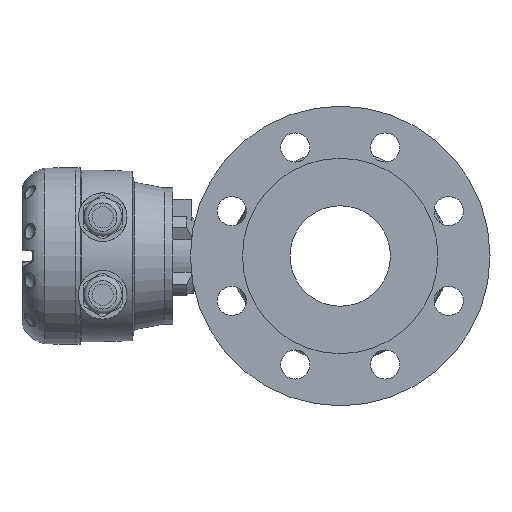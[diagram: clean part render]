
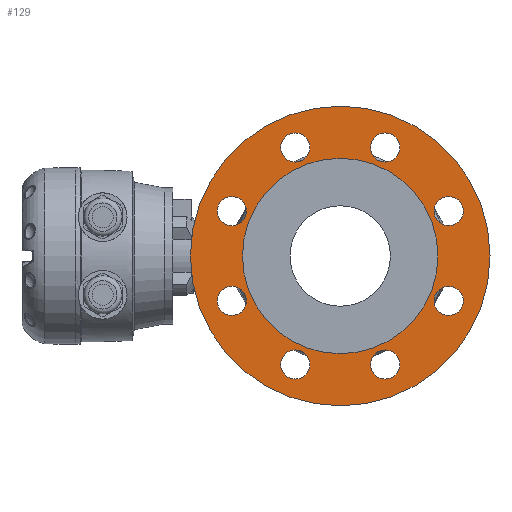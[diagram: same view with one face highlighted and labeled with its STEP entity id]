
A CAD part, left-side view. The second image highlights one B-rep face of the part: STEP entity #129.
In plain terms, the highlighted planar face has unit normal (-1, 0, 0).
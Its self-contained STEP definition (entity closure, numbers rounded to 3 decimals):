
#129 = ADVANCED_FACE ( 'NONE', ( #14922, #14928, #14930, #14932, #14926, #14921, #14929, #14931, #14933, #14927 ), #5978, .T. ) ;
#4008 = EDGE_LOOP ( 'NONE', ( #14595 ) ) ;
#4026 = EDGE_LOOP ( 'NONE', ( #14586 ) ) ;
#4060 = EDGE_LOOP ( 'NONE', ( #14592 ) ) ;
#4061 = EDGE_LOOP ( 'NONE', ( #14593 ) ) ;
#4062 = EDGE_LOOP ( 'NONE', ( #14594 ) ) ;
#4063 = EDGE_LOOP ( 'NONE', ( #14591 ) ) ;
#4069 = EDGE_LOOP ( 'NONE', ( #14587 ) ) ;
#4156 = EDGE_LOOP ( 'NONE', ( #14589 ) ) ;
#4157 = EDGE_LOOP ( 'NONE', ( #14588 ) ) ;
#4158 = EDGE_LOOP ( 'NONE', ( #14590 ) ) ;
#4726 = CIRCLE ( 'NONE', #14375, 9. ) ;
#4763 = CIRCLE ( 'NONE', #14378, 9. ) ;
#4764 = CIRCLE ( 'NONE', #14385, 9. ) ;
#4797 = CIRCLE ( 'NONE', #14391, 92.5 ) ;
#4916 = CIRCLE ( 'NONE', #14437, 9. ) ;
#5026 = CIRCLE ( 'NONE', #14461, 60.35 ) ;
#5066 = CIRCLE ( 'NONE', #14472, 9. ) ;
#5109 = CIRCLE ( 'NONE', #14485, 9. ) ;
#5165 = CIRCLE ( 'NONE', #14493, 9. ) ;
#5978 = PLANE ( 'NONE',  #14023 ) ;
#5984 = DIRECTION ( 'NONE',  ( 0., 0., -1. ) ) ;
#5985 = CARTESIAN_POINT ( 'NONE',  ( -89.805, -97.017, -10.543 ) ) ;
#6111 = DIRECTION ( 'NONE',  ( -1., 0., 0. ) ) ;
#6711 = CARTESIAN_POINT ( 'NONE',  ( -89.805, -163.998, 17.202 ) ) ;
#6712 = DIRECTION ( 'NONE',  ( -1., 0., 0. ) ) ;
#6713 = DIRECTION ( 'NONE',  ( 0., 0., 1. ) ) ;
#6760 = CARTESIAN_POINT ( 'NONE',  ( -89.805, -69.272, -77.524 ) ) ;
#6773 = DIRECTION ( 'NONE',  ( -1., 0., 0. ) ) ;
#6774 = DIRECTION ( 'NONE',  ( 0., 0., 1. ) ) ;
#6850 = CARTESIAN_POINT ( 'NONE',  ( -89.805, -69.272, 56.438 ) ) ;
#6868 = CARTESIAN_POINT ( 'NONE',  ( -89.805, -124.761, 56.438 ) ) ;
#6873 = DIRECTION ( 'NONE',  ( -1., 0., 0. ) ) ;
#6874 = DIRECTION ( 'NONE',  ( 0., 0., 1. ) ) ;
#6876 = DIRECTION ( 'NONE',  ( -1., 0., 0. ) ) ;
#6877 = DIRECTION ( 'NONE',  ( 0., 0., 1. ) ) ;
#6957 = CARTESIAN_POINT ( 'NONE',  ( -89.805, -97.017, -10.543 ) ) ;
#6959 = DIRECTION ( 'NONE',  ( 1., 0., 0. ) ) ;
#6960 = DIRECTION ( 'NONE',  ( 0., 0., -1. ) ) ;
#7236 = CARTESIAN_POINT ( 'NONE',  ( -89.805, -124.761, -77.524 ) ) ;
#7239 = DIRECTION ( 'NONE',  ( -1., 0., 0. ) ) ;
#7240 = DIRECTION ( 'NONE',  ( 0., 0., 1. ) ) ;
#7588 = CARTESIAN_POINT ( 'NONE',  ( -89.805, -97.017, -10.543 ) ) ;
#7590 = DIRECTION ( 'NONE',  ( 1., 0., 0. ) ) ;
#7591 = DIRECTION ( 'NONE',  ( 0., 0., -1. ) ) ;
#7689 = CARTESIAN_POINT ( 'NONE',  ( -89.805, -163.998, -38.287 ) ) ;
#7699 = DIRECTION ( 'NONE',  ( -1., 0., 0. ) ) ;
#7700 = DIRECTION ( 'NONE',  ( 0., 0., 1. ) ) ;
#7790 = CARTESIAN_POINT ( 'NONE',  ( -89.805, -30.036, 17.202 ) ) ;
#7796 = DIRECTION ( 'NONE',  ( -1., 0., 0. ) ) ;
#7797 = DIRECTION ( 'NONE',  ( 0., 0., 1. ) ) ;
#7922 = CARTESIAN_POINT ( 'NONE',  ( -89.805, -30.036, -38.287 ) ) ;
#7927 = DIRECTION ( 'NONE',  ( -1., 0., 0. ) ) ;
#7928 = DIRECTION ( 'NONE',  ( 0., 0., 1. ) ) ;
#8699 = VERTEX_POINT ( 'NONE', #8700 ) ;
#8700 = CARTESIAN_POINT ( 'NONE',  ( -89.805, -163.998, 26.202 ) ) ;
#8709 = VERTEX_POINT ( 'NONE', #8710 ) ;
#8710 = CARTESIAN_POINT ( 'NONE',  ( -89.805, -69.272, -68.524 ) ) ;
#8713 = VERTEX_POINT ( 'NONE', #8714 ) ;
#8714 = CARTESIAN_POINT ( 'NONE',  ( -89.805, -124.761, 65.438 ) ) ;
#8715 = VERTEX_POINT ( 'NONE', #8716 ) ;
#8716 = CARTESIAN_POINT ( 'NONE',  ( -89.805, -69.272, 65.438 ) ) ;
#8725 = VERTEX_POINT ( 'NONE', #8726 ) ;
#8726 = CARTESIAN_POINT ( 'NONE',  ( -89.805, -97.017, -103.043 ) ) ;
#8731 = VERTEX_POINT ( 'NONE', #8732 ) ;
#8732 = CARTESIAN_POINT ( 'NONE',  ( -89.805, -124.761, -68.524 ) ) ;
#8747 = VERTEX_POINT ( 'NONE', #8748 ) ;
#8748 = CARTESIAN_POINT ( 'NONE',  ( -89.805, -97.017, -70.893 ) ) ;
#8759 = VERTEX_POINT ( 'NONE', #8760 ) ;
#8760 = CARTESIAN_POINT ( 'NONE',  ( -89.805, -163.998, -29.287 ) ) ;
#8771 = VERTEX_POINT ( 'NONE', #8772 ) ;
#8772 = CARTESIAN_POINT ( 'NONE',  ( -89.805, -30.036, 26.202 ) ) ;
#8783 = VERTEX_POINT ( 'NONE', #8784 ) ;
#8784 = CARTESIAN_POINT ( 'NONE',  ( -89.805, -30.036, -29.287 ) ) ;
#9472 = EDGE_CURVE ( 'NONE', #8699, #8699, #15765, .T. ) ;
#9881 = EDGE_CURVE ( 'NONE', #8709, #8709, #4726, .T. ) ;
#10624 = EDGE_CURVE ( 'NONE', #8713, #8713, #4763, .T. ) ;
#10663 = EDGE_CURVE ( 'NONE', #8715, #8715, #4764, .T. ) ;
#11017 = EDGE_CURVE ( 'NONE', #8725, #8725, #4797, .T. ) ;
#13526 = EDGE_CURVE ( 'NONE', #8731, #8731, #4916, .T. ) ;
#13612 = EDGE_CURVE ( 'NONE', #8747, #8747, #5026, .T. ) ;
#13643 = EDGE_CURVE ( 'NONE', #8759, #8759, #5066, .T. ) ;
#13676 = EDGE_CURVE ( 'NONE', #8771, #8771, #5109, .T. ) ;
#13712 = EDGE_CURVE ( 'NONE', #8783, #8783, #5165, .T. ) ;
#14023 = AXIS2_PLACEMENT_3D ( 'NONE', #5985, #6111, #5984 ) ;
#14282 = AXIS2_PLACEMENT_3D ( 'NONE', #6711, #6712, #6713 ) ;
#14375 = AXIS2_PLACEMENT_3D ( 'NONE', #6760, #6773, #6774 ) ;
#14378 = AXIS2_PLACEMENT_3D ( 'NONE', #6868, #6873, #6874 ) ;
#14385 = AXIS2_PLACEMENT_3D ( 'NONE', #6850, #6876, #6877 ) ;
#14391 = AXIS2_PLACEMENT_3D ( 'NONE', #6957, #6959, #6960 ) ;
#14437 = AXIS2_PLACEMENT_3D ( 'NONE', #7236, #7239, #7240 ) ;
#14461 = AXIS2_PLACEMENT_3D ( 'NONE', #7588, #7590, #7591 ) ;
#14472 = AXIS2_PLACEMENT_3D ( 'NONE', #7689, #7699, #7700 ) ;
#14485 = AXIS2_PLACEMENT_3D ( 'NONE', #7790, #7796, #7797 ) ;
#14493 = AXIS2_PLACEMENT_3D ( 'NONE', #7922, #7927, #7928 ) ;
#14586 = ORIENTED_EDGE ( 'NONE', *, *, #13612, .T. ) ;
#14587 = ORIENTED_EDGE ( 'NONE', *, *, #11017, .F. ) ;
#14588 = ORIENTED_EDGE ( 'NONE', *, *, #13712, .F. ) ;
#14589 = ORIENTED_EDGE ( 'NONE', *, *, #9881, .F. ) ;
#14590 = ORIENTED_EDGE ( 'NONE', *, *, #13526, .F. ) ;
#14591 = ORIENTED_EDGE ( 'NONE', *, *, #13643, .F. ) ;
#14592 = ORIENTED_EDGE ( 'NONE', *, *, #9472, .F. ) ;
#14593 = ORIENTED_EDGE ( 'NONE', *, *, #10624, .F. ) ;
#14594 = ORIENTED_EDGE ( 'NONE', *, *, #10663, .F. ) ;
#14595 = ORIENTED_EDGE ( 'NONE', *, *, #13676, .F. ) ;
#14921 = FACE_BOUND ( 'NONE', #4158, .T. ) ;
#14922 = FACE_BOUND ( 'NONE', #4008, .T. ) ;
#14926 = FACE_BOUND ( 'NONE', #4063, .T. ) ;
#14927 = FACE_BOUND ( 'NONE', #4026, .T. ) ;
#14928 = FACE_BOUND ( 'NONE', #4062, .T. ) ;
#14929 = FACE_BOUND ( 'NONE', #4156, .T. ) ;
#14930 = FACE_BOUND ( 'NONE', #4061, .T. ) ;
#14931 = FACE_BOUND ( 'NONE', #4157, .T. ) ;
#14932 = FACE_BOUND ( 'NONE', #4060, .T. ) ;
#14933 = FACE_OUTER_BOUND ( 'NONE', #4069, .T. ) ;
#15765 = CIRCLE ( 'NONE', #14282, 9. ) ;
